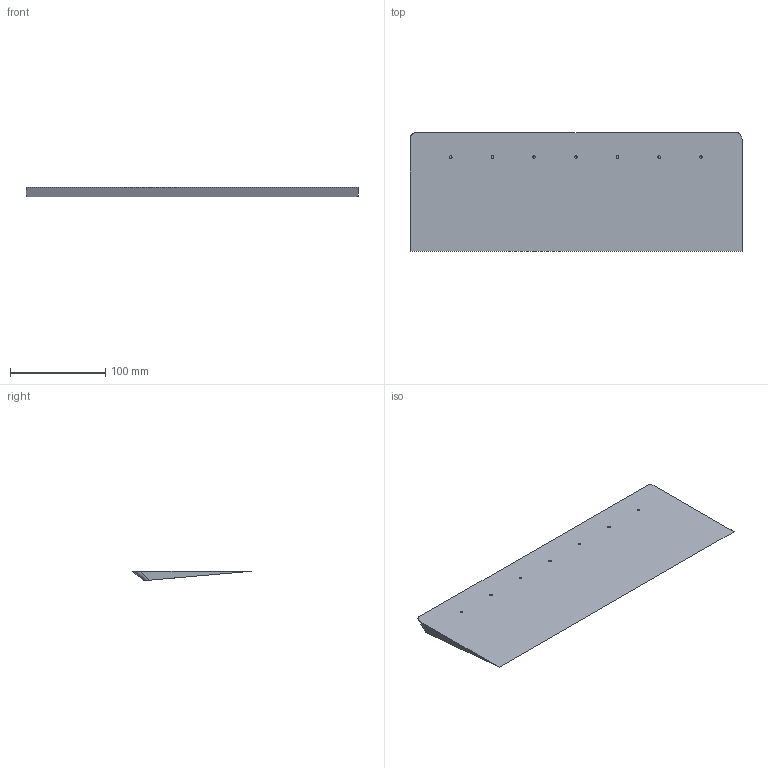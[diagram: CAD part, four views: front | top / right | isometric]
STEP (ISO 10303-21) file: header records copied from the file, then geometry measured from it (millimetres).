
FILE_DESCRIPTION(('HOOPS Exchange Step'),'2;1');
FILE_NAME('C:\Users\juanj\AppData\Local\Packages\Shapr3D.Shapr3D_j403pzjkqtqbj\TempState\export\temp_export','2024-12-14T23:59:03+01:00',('juanj'),('Shapr3D Limited'),'HOOPS Exchange 2024.6','Shapr3D','Authorized');
FILE_SCHEMA( ('AP242_MANAGED_MODEL_BASED_3D_ENGINEERING_MIM_LF {1 0 10303 442 1 1 4 }') );
Length unit declared in the file: millimetre
Products named in the file (1): Feet
Bounding box: 348 x 124 x 10 mm (x, y, z)
Volume: 215409.6 mm3; surface area: 89239.5 mm2
Topology: 1 solids, 1 shells, 21 faces, 43 edges, 31 vertices
Faces by surface type: plane 12, cylinder 9
Full cylindrical faces by diameter (mm): 2.65 x7
Entity records: 614 total; most frequent: DIRECTION 114, CARTESIAN_POINT 97, ORIENTED_EDGE 86, AXIS2_PLACEMENT_3D 48, EDGE_CURVE 43, VERTEX_POINT 31, EDGE_LOOP 28, FACE_BOUND 28
